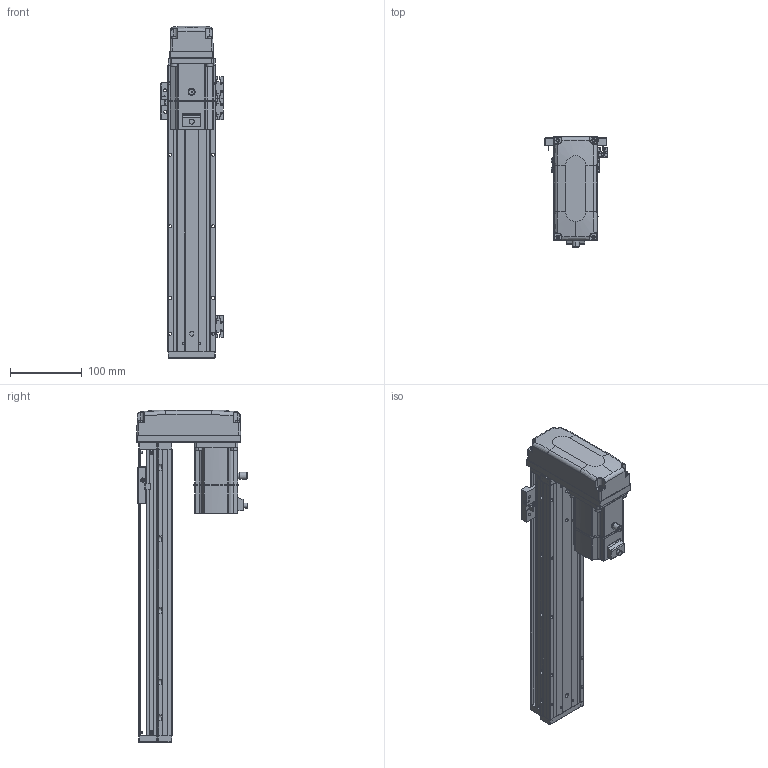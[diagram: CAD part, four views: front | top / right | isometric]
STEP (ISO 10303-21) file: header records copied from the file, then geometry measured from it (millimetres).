
FILE_DESCRIPTION (( 'STEP AP203' ), '1' );
FILE_NAME ('KTHA60-300-BM-M20-C4L.step', '2022-12-16T01:34:58', ( '微软用户' ), ( '微软中国' ), 'SwSTEP 2.0', 'SolidWorks 2020', '' );
FILE_SCHEMA (( 'CONFIG_CONTROL_DESIGN' ));
Length unit declared in the file: millimetre
Products named in the file (17): KTHA60-004; GBT 70.1-M4×16; _X2_4E0983F1_X0_200W_1; KTHA60-005; GBT77-2000M3-3; KTHA60-300-BM-M20-C4L; GB¨uT 70.2-M3¡Á5_M3¡Á6; GBT 70.1-M3℅6; KTHA60-001_400; GBT 70.3-M3℅6; CTHA60-016; EE_SX911P_R; KTHA60-002; CTHA60-017; BTH80-026; CTHA60-021; CTHA60-006-2_CTHA60-006-2
Assembly tree (51 placements, depth 2):
  KTHA60-300-BM-M20-C4L
    KTHA60-001_400
    KTHA60-004
    KTHA60-005
    GB¨uT 70.2-M3¡Á5_M3¡Á6  x6
    GBT 70.3-M3℅6  x4
    EE_SX911P_R  x3
    CTHA60-017  x3
    CTHA60-021  x2
    GBT 70.1-M4×16  x8
    GBT77-2000M3-3  x6
    GBT 70.1-M3℅6  x10
    CTHA60-016  x2
    KTHA60-002
    BTH80-026
    CTHA60-006-2_CTHA60-006-2
    _X2_4E0983F1_X0_200W_1
Bounding box: 87.72 x 155.2 x 464 mm (x, y, z)
Volume: 1174270 mm3; surface area: 310238.8 mm2
Topology: 54 solids, 54 shells, 2408 faces, 5717 edges, 3514 vertices
Faces by surface type: plane 1273, cylinder 638, cone 280, bspline 109, torus 92, sphere 16
Entity records: 44240 total; most frequent: CARTESIAN_POINT 10370, ORIENTED_EDGE 6482, DIRECTION 6478, EDGE_CURVE 3241, AXIS2_PLACEMENT_3D 2241, VERTEX_POINT 2023, LINE 1996, VECTOR 1996
